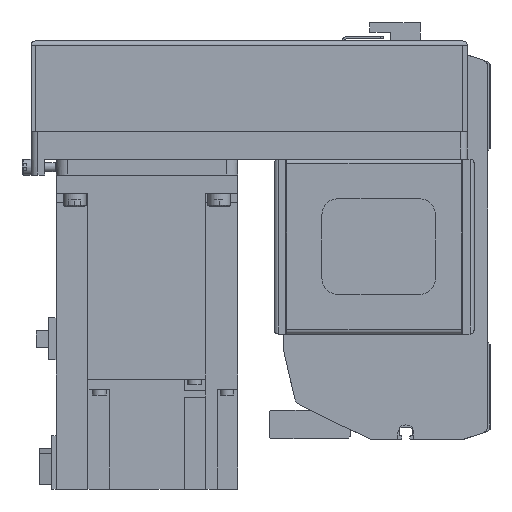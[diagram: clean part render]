
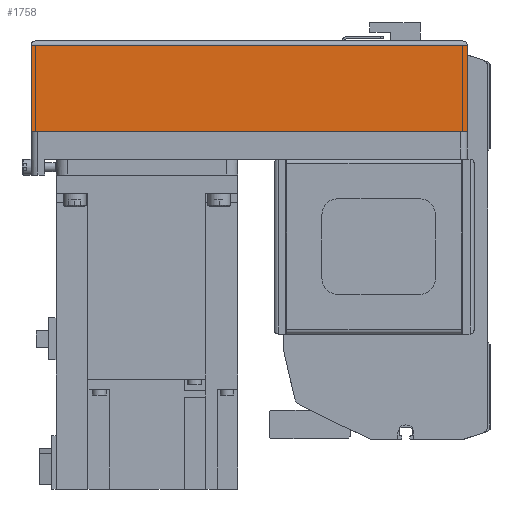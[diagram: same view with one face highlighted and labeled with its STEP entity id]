
A CAD part, left-side view. The second image highlights one B-rep face of the part: STEP entity #1758.
In plain terms, the highlighted planar face has unit normal (-1, 0, 0) as drawn and (0, 1, 0) by its records, which use the part's own axes.
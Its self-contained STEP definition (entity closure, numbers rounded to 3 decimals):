
#1758 = ADVANCED_FACE( '', ( #4131 ), #4132, .T. );
#4131 = FACE_OUTER_BOUND( '', #7253, .T. );
#4132 = PLANE( '', #7254 );
#7253 = EDGE_LOOP( '', ( #12243, #12244, #12245, #12246 ) );
#7254 = AXIS2_PLACEMENT_3D( '', #12247, #12248, #12249 );
#12243 = ORIENTED_EDGE( '', *, *, #19624, .F. );
#12244 = ORIENTED_EDGE( '', *, *, #19529, .F. );
#12245 = ORIENTED_EDGE( '', *, *, #19625, .T. );
#12246 = ORIENTED_EDGE( '', *, *, #17971, .T. );
#12247 = CARTESIAN_POINT( '', ( -192., 40., -50. ) );
#12248 = DIRECTION( '', ( 0., 1., 0. ) );
#12249 = DIRECTION( '', ( 0., 0., 1. ) );
#17971 = EDGE_CURVE( '', #21342, #21340, #21343, .T. );
#19529 = EDGE_CURVE( '', #23973, #22589, #23976, .T. );
#19624 = EDGE_CURVE( '', #22589, #21340, #24119, .T. );
#19625 = EDGE_CURVE( '', #23973, #21342, #24120, .T. );
#21340 = VERTEX_POINT( '', #26341 );
#21342 = VERTEX_POINT( '', #26344 );
#21343 = LINE( '', #26345, #26346 );
#22589 = VERTEX_POINT( '', #28130 );
#23973 = VERTEX_POINT( '', #30121 );
#23976 = LINE( '', #30124, #30125 );
#24119 = LINE( '', #30332, #30333 );
#24120 = LINE( '', #30334, #30335 );
#26341 = CARTESIAN_POINT( '', ( 0., 40., -12.1 ) );
#26344 = CARTESIAN_POINT( '', ( -192., 40., -12.1 ) );
#26345 = CARTESIAN_POINT( '', ( -192., 40., -12.1 ) );
#26346 = VECTOR( '', #33441, 1000. );
#28130 = CARTESIAN_POINT( '', ( 0., 40., -50. ) );
#30121 = CARTESIAN_POINT( '', ( -192., 40., -50. ) );
#30124 = CARTESIAN_POINT( '', ( -192., 40., -50. ) );
#30125 = VECTOR( '', #35501, 1000. );
#30332 = CARTESIAN_POINT( '', ( 0., 40., -50. ) );
#30333 = VECTOR( '', #35610, 1000. );
#30334 = CARTESIAN_POINT( '', ( -192., 40., -50. ) );
#30335 = VECTOR( '', #35611, 1000. );
#33441 = DIRECTION( '', ( 1., 0., 0. ) );
#35501 = DIRECTION( '', ( 1., 0., 0. ) );
#35610 = DIRECTION( '', ( 0., 0., 1. ) );
#35611 = DIRECTION( '', ( 0., 0., 1. ) );
